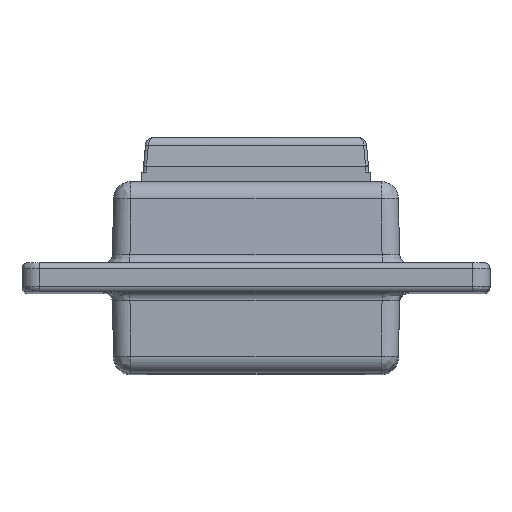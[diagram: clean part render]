
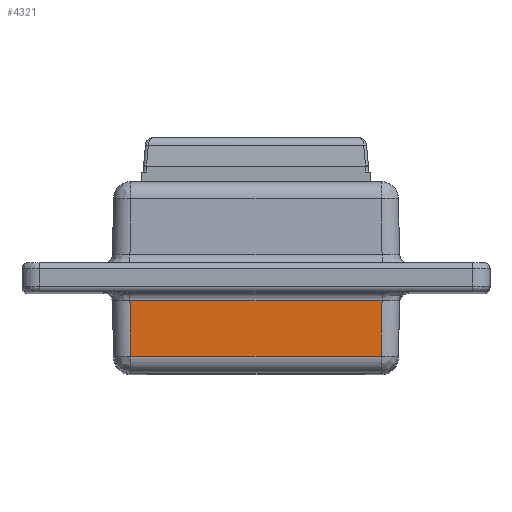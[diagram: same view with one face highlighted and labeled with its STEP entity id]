
A CAD part, top view. The second image highlights one B-rep face of the part: STEP entity #4321.
In plain terms, the highlighted planar face has unit normal (0, -0.018, 1).
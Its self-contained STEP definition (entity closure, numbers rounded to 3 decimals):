
#3566=CARTESIAN_POINT('',(28.529,78.221,217.031));
#3567=VERTEX_POINT('',#3566);
#3598=CARTESIAN_POINT('',(71.891,78.221,217.031));
#3599=VERTEX_POINT('',#3598);
#3600=CARTESIAN_POINT('',(28.529,78.221,217.031));
#3601=DIRECTION('',(1.,0.,0.));
#3602=VECTOR('',#3601,43.362);
#3603=LINE('',#3600,#3602);
#3604=EDGE_CURVE('',#3567,#3599,#3603,.T.);
#4279=CARTESIAN_POINT('',(28.696,68.643,216.864));
#4280=VERTEX_POINT('',#4279);
#4288=CARTESIAN_POINT('',(28.696,68.643,216.864));
#4289=DIRECTION('',(-0.017,1.,0.017));
#4290=VECTOR('',#4289,9.581);
#4291=LINE('',#4288,#4290);
#4292=EDGE_CURVE('',#4280,#3567,#4291,.T.);
#4298=CARTESIAN_POINT('',(25.46,82.195,217.1));
#4299=DIRECTION('',(0.,-1.,-0.017));
#4300=DIRECTION('',(0.,-0.017,1.));
#4301=AXIS2_PLACEMENT_3D('',#4298,#4300,#4299);
#4302=PLANE('',#4301);
#4303=ORIENTED_EDGE('',*,*,#4292,.F.);
#4304=CARTESIAN_POINT('',(71.724,68.643,216.864));
#4305=VERTEX_POINT('',#4304);
#4306=CARTESIAN_POINT('',(28.696,68.643,216.864));
#4307=DIRECTION('',(1.,0.,0.));
#4308=VECTOR('',#4307,43.028);
#4309=LINE('',#4306,#4308);
#4310=EDGE_CURVE('',#4280,#4305,#4309,.T.);
#4311=ORIENTED_EDGE('E252',*,*,#4310,.T.);
#4312=CARTESIAN_POINT('',(71.724,68.643,216.864));
#4313=DIRECTION('',(0.017,1.,0.017));
#4314=VECTOR('',#4313,9.581);
#4315=LINE('',#4312,#4314);
#4316=EDGE_CURVE('',#4305,#3599,#4315,.T.);
#4317=ORIENTED_EDGE('E253',*,*,#4316,.T.);
#4318=ORIENTED_EDGE('E253',*,*,#3604,.F.);
#4319=EDGE_LOOP('',(#4303,#4311,#4317,#4318));
#4320=FACE_OUTER_BOUND('',#4319,.T.);
#4321=ADVANCED_FACE('F90',(#4320),#4302,.T.);
